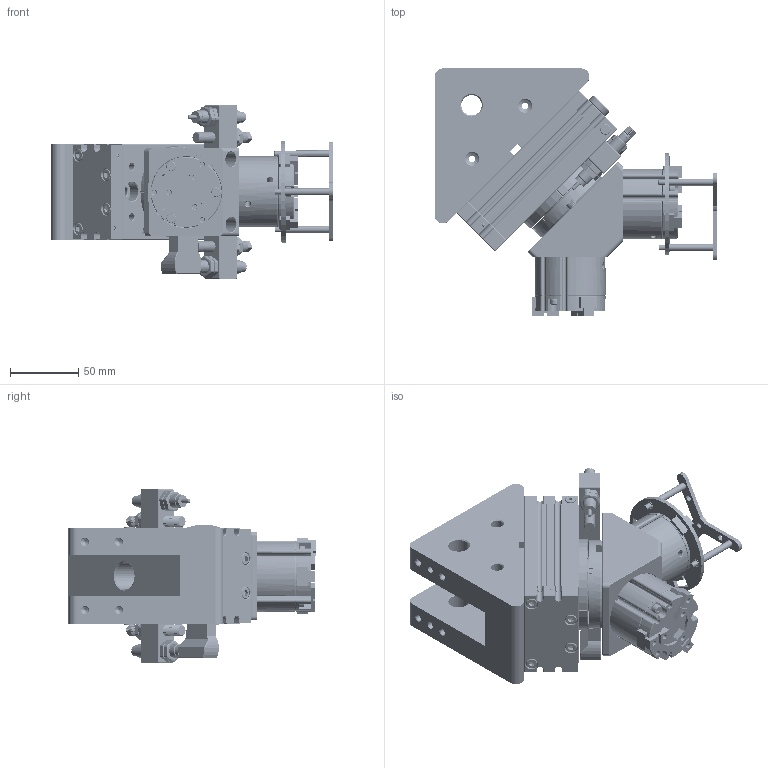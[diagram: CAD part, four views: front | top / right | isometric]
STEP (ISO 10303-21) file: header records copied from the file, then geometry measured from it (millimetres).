
FILE_DESCRIPTION (( 'STEP AP214' ), '1' );
FILE_NAME ('SUMiSU-TQ30-Y-32.STEP', '2026-04-03T08:40:14', ( '' ), ( '' ), 'SwSTEP 2.0', 'SolidWorks 2024', '' );
FILE_SCHEMA (( 'AUTOMOTIVE_DESIGN' ));
Products named in the file (3): Q30-A3; SUMiSU-TQ30-Y-32; TQ30-Y-32-00A1
Assembly tree (2 placements, depth 2):
  SUMiSU-TQ30-Y-32
    TQ30-Y-32-00A1
    Q30-A3
Bounding box: 207.38 x 181.36 x 128 mm (x, y, z)
Volume: 1003301.9 mm3; surface area: 242536 mm2
Topology: 3 solids, 71 shells, 4656 faces, 11743 edges, 7245 vertices
Faces by surface type: plane 1770, cylinder 1541, cone 1089, bspline 170, torus 46, sphere 40
Entity records: 303531 total; most frequent: CARTESIAN_POINT 194922, ORIENTED_EDGE 23146, DIRECTION 22518, EDGE_CURVE 11573, AXIS2_PLACEMENT_3D 8381, VERTEX_POINT 7237, LINE 5756, VECTOR 5756
